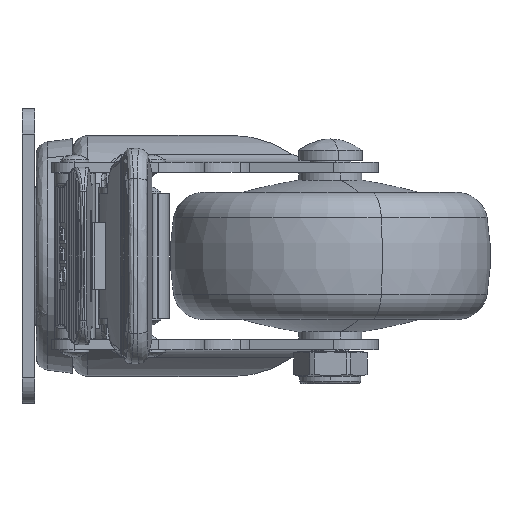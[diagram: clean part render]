
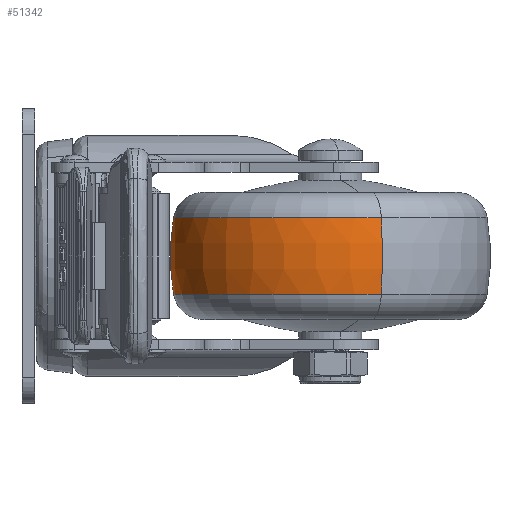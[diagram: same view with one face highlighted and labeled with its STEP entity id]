
A CAD part, left-side view. The second image highlights one B-rep face of the part: STEP entity #51342.
In plain terms, the highlighted toroidal (fillet/blend) face has major radius 13.5 mm and minor radius 45 mm.
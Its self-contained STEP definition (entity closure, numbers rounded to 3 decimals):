
#3350 = CARTESIAN_POINT ( 'NONE',  ( 30.871, 0., 7.5 ) ) ;
#3450 = CARTESIAN_POINT ( 'NONE',  ( -30.871, 0., 7.5 ) ) ;
#4494 = EDGE_LOOP ( 'NONE', ( #38804, #100432, #101503, #36872 ) ) ;
#4711 = CARTESIAN_POINT ( 'NONE',  ( 0., 0., -7.5 ) ) ;
#4816 = AXIS2_PLACEMENT_3D ( 'NONE', #4711, #36879, #43608 ) ;
#13947 = CIRCLE ( 'NONE', #4816, 30.871 ) ;
#17607 = DIRECTION ( 'NONE',  ( 0., 0., 1. ) ) ;
#18735 = CIRCLE ( 'NONE', #73470, 30.871 ) ;
#19431 = EDGE_CURVE ( 'NONE', #23655, #51297, #13947, .T. ) ;
#20027 = TOROIDAL_SURFACE ( 'NONE', #90407, -13.5, 45. ) ;
#22095 = DIRECTION ( 'NONE',  ( 0., 0., -1. ) ) ;
#23655 = VERTEX_POINT ( 'NONE', #45154 ) ;
#36872 = ORIENTED_EDGE ( 'NONE', *, *, #75338, .F. ) ;
#36879 = DIRECTION ( 'NONE',  ( 0., 0., 1. ) ) ;
#38804 = ORIENTED_EDGE ( 'NONE', *, *, #19431, .T. ) ;
#43608 = DIRECTION ( 'NONE',  ( 1., 0., 0. ) ) ;
#45154 = CARTESIAN_POINT ( 'NONE',  ( 30.871, 0., -7.5 ) ) ;
#50116 = AXIS2_PLACEMENT_3D ( 'NONE', #54960, #86082, #22095 ) ;
#50779 = CARTESIAN_POINT ( 'NONE',  ( 0., 0., 0. ) ) ;
#51297 = VERTEX_POINT ( 'NONE', #68083 ) ;
#51342 = ADVANCED_FACE ( 'NONE', ( #94748 ), #20027, .T. ) ;
#52709 = EDGE_CURVE ( 'NONE', #55440, #77941, #18735, .T. ) ;
#53631 = CIRCLE ( 'NONE', #66062, 45. ) ;
#54960 = CARTESIAN_POINT ( 'NONE',  ( -13.5, 0., 0. ) ) ;
#55440 = VERTEX_POINT ( 'NONE', #3350 ) ;
#57555 = DIRECTION ( 'NONE',  ( 1., 0., 0. ) ) ;
#59860 = DIRECTION ( 'NONE',  ( -1., 0., 0. ) ) ;
#60551 = CARTESIAN_POINT ( 'NONE',  ( 13.5, 0., 0. ) ) ;
#66062 = AXIS2_PLACEMENT_3D ( 'NONE', #60551, #68699, #59860 ) ;
#68083 = CARTESIAN_POINT ( 'NONE',  ( -30.871, 0., -7.5 ) ) ;
#68431 = DIRECTION ( 'NONE',  ( 1., 0., 0. ) ) ;
#68699 = DIRECTION ( 'NONE',  ( 0., 1., 0. ) ) ;
#73470 = AXIS2_PLACEMENT_3D ( 'NONE', #81273, #17607, #57555 ) ;
#75338 = EDGE_CURVE ( 'NONE', #23655, #55440, #82325, .T. ) ;
#77941 = VERTEX_POINT ( 'NONE', #3450 ) ;
#81273 = CARTESIAN_POINT ( 'NONE',  ( 0., 0., 7.5 ) ) ;
#82325 = CIRCLE ( 'NONE', #50116, 45. ) ;
#83661 = DIRECTION ( 'NONE',  ( 0., 0., 1. ) ) ;
#86082 = DIRECTION ( 'NONE',  ( 0., -1., 0. ) ) ;
#90407 = AXIS2_PLACEMENT_3D ( 'NONE', #50779, #83661, #68431 ) ;
#94748 = FACE_OUTER_BOUND ( 'NONE', #4494, .T. ) ;
#99246 = EDGE_CURVE ( 'NONE', #51297, #77941, #53631, .T. ) ;
#100432 = ORIENTED_EDGE ( 'NONE', *, *, #99246, .T. ) ;
#101503 = ORIENTED_EDGE ( 'NONE', *, *, #52709, .F. ) ;
